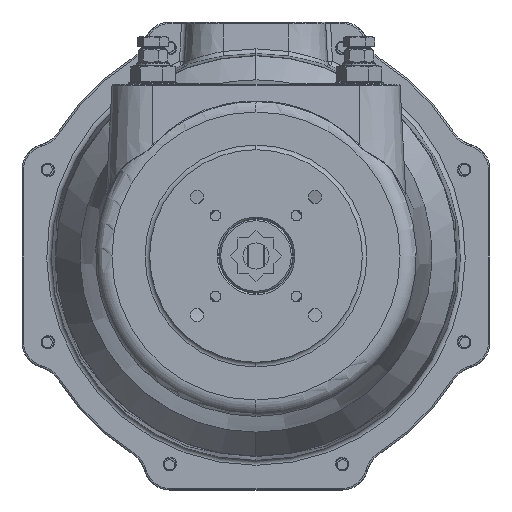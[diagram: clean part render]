
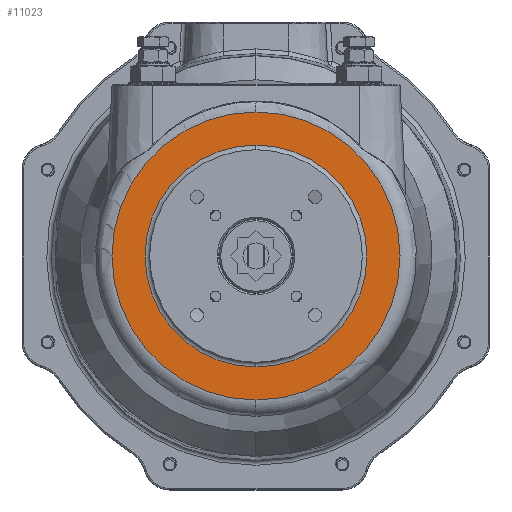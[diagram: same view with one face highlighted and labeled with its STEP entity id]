
A CAD part, front view. The second image highlights one B-rep face of the part: STEP entity #11023.
In plain terms, the highlighted planar face has unit normal (0, -1, 0).
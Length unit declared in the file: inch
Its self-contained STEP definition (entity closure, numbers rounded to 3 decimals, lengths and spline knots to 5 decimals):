
#2417 = EDGE_CURVE ( 'NONE', #15137, #62247, #24963, .T. ) ;
#4923 = ORIENTED_EDGE ( 'NONE', *, *, #7360, .T. ) ;
#5337 = CARTESIAN_POINT ( 'NONE',  ( 7.08271, 1.75067, 6.61711 ) ) ;
#7360 = EDGE_CURVE ( 'NONE', #66641, #32341, #25593, .T. ) ;
#11023 = ADVANCED_FACE ( 'NONE', ( #30069, #13097 ), #46407, .F. ) ;
#13097 = FACE_OUTER_BOUND ( 'NONE', #44326, .T. ) ;
#14993 = ORIENTED_EDGE ( 'NONE', *, *, #2417, .T. ) ;
#15137 = VERTEX_POINT ( 'NONE', #48516 ) ;
#17244 = EDGE_CURVE ( 'NONE', #32341, #66641, #20333, .T. ) ;
#19602 = DIRECTION ( 'NONE',  ( 0., 1., 0. ) ) ;
#20333 = CIRCLE ( 'NONE', #31794, 2.66904 ) ;
#20725 = CARTESIAN_POINT ( 'NONE',  ( 7.08271, 1.75067, 6.61711 ) ) ;
#20985 = AXIS2_PLACEMENT_3D ( 'NONE', #68450, #19602, #40927 ) ;
#23547 = CARTESIAN_POINT ( 'NONE',  ( 7.08271, 1.75067, 10.08176 ) ) ;
#24963 = CIRCLE ( 'NONE', #33059, 3.46465 ) ;
#25246 = DIRECTION ( 'NONE',  ( 0., -1., 0. ) ) ;
#25256 = DIRECTION ( 'NONE',  ( 0., -1., 0. ) ) ;
#25593 = CIRCLE ( 'NONE', #59156, 2.66904 ) ;
#26123 = DIRECTION ( 'NONE',  ( 0., 0., 1. ) ) ;
#27407 = DIRECTION ( 'NONE',  ( 0., 0., 1. ) ) ;
#30069 = FACE_BOUND ( 'NONE', #30571, .T. ) ;
#30571 = EDGE_LOOP ( 'NONE', ( #57706, #4923 ) ) ;
#31011 = DIRECTION ( 'NONE',  ( 0., 0., -1. ) ) ;
#31323 = EDGE_CURVE ( 'NONE', #62247, #15137, #33041, .T. ) ;
#31794 = AXIS2_PLACEMENT_3D ( 'NONE', #5337, #71567, #27407 ) ;
#32242 = DIRECTION ( 'NONE',  ( 0., 1., 0. ) ) ;
#32341 = VERTEX_POINT ( 'NONE', #39622 ) ;
#33041 = CIRCLE ( 'NONE', #42347, 3.46465 ) ;
#33059 = AXIS2_PLACEMENT_3D ( 'NONE', #35700, #25246, #63987 ) ;
#35700 = CARTESIAN_POINT ( 'NONE',  ( 7.08271, 1.75067, 6.61711 ) ) ;
#39622 = CARTESIAN_POINT ( 'NONE',  ( 7.08271, 1.75067, 9.28614 ) ) ;
#40927 = DIRECTION ( 'NONE',  ( 0., 0., 1. ) ) ;
#42347 = AXIS2_PLACEMENT_3D ( 'NONE', #59677, #25256, #31011 ) ;
#44326 = EDGE_LOOP ( 'NONE', ( #14993, #64026 ) ) ;
#46407 = PLANE ( 'NONE',  #20985 ) ;
#48516 = CARTESIAN_POINT ( 'NONE',  ( 7.08271, 1.75067, 3.15245 ) ) ;
#57706 = ORIENTED_EDGE ( 'NONE', *, *, #17244, .T. ) ;
#59156 = AXIS2_PLACEMENT_3D ( 'NONE', #20725, #32242, #26123 ) ;
#59677 = CARTESIAN_POINT ( 'NONE',  ( 7.08271, 1.75067, 6.61711 ) ) ;
#62247 = VERTEX_POINT ( 'NONE', #23547 ) ;
#63987 = DIRECTION ( 'NONE',  ( 0., 0., -1. ) ) ;
#64026 = ORIENTED_EDGE ( 'NONE', *, *, #31323, .T. ) ;
#66641 = VERTEX_POINT ( 'NONE', #69243 ) ;
#68450 = CARTESIAN_POINT ( 'NONE',  ( 10.54737, 1.75067, 6.61711 ) ) ;
#69243 = CARTESIAN_POINT ( 'NONE',  ( 7.08271, 1.75067, 3.94807 ) ) ;
#71567 = DIRECTION ( 'NONE',  ( 0., 1., 0. ) ) ;
